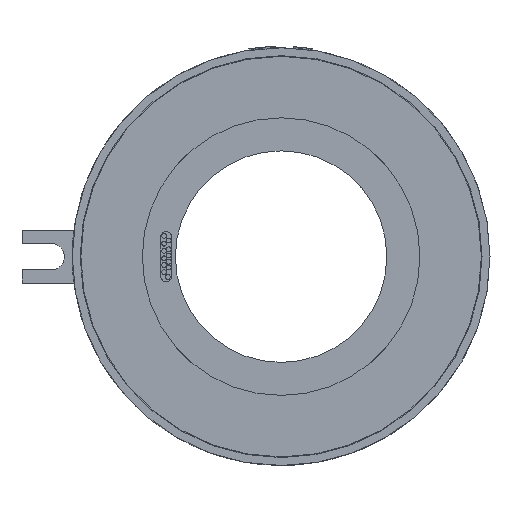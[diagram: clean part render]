
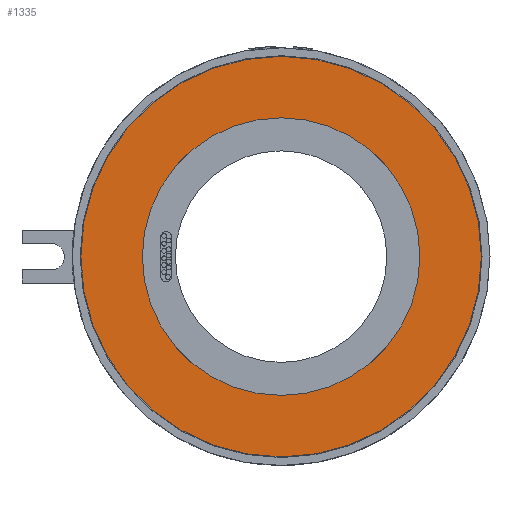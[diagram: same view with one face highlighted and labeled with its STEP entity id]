
A CAD part, front view. The second image highlights one B-rep face of the part: STEP entity #1335.
In plain terms, the highlighted planar face has unit normal (0, -1, 0).
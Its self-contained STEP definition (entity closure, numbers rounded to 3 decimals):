
#224=FACE_BOUND('',#2676,.T.);
#225=FACE_BOUND('',#2677,.T.);
#367=CIRCLE('',#8122,52.5);
#371=CIRCLE('',#8128,75.75);
#372=CIRCLE('',#8129,75.75);
#373=CIRCLE('',#8130,52.5);
#792=PLANE('',#8131);
#1335=ADVANCED_FACE('',(#224,#225),#792,.F.);
#2676=EDGE_LOOP('',(#4220,#4221));
#2677=EDGE_LOOP('',(#4222,#4223));
#4220=ORIENTED_EDGE('',*,*,#6752,.T.);
#4221=ORIENTED_EDGE('',*,*,#6753,.T.);
#4222=ORIENTED_EDGE('',*,*,#6754,.T.);
#4223=ORIENTED_EDGE('',*,*,#6744,.T.);
#5735=VERTEX_POINT('',#29063);
#5736=VERTEX_POINT('',#29065);
#5743=VERTEX_POINT('',#29203);
#5744=VERTEX_POINT('',#29204);
#6744=EDGE_CURVE('',#5735,#5736,#367,.T.);
#6752=EDGE_CURVE('',#5743,#5744,#371,.T.);
#6753=EDGE_CURVE('',#5744,#5743,#372,.T.);
#6754=EDGE_CURVE('',#5736,#5735,#373,.T.);
#8122=AXIS2_PLACEMENT_3D('',#29066,#9254,#9255);
#8128=AXIS2_PLACEMENT_3D('',#29202,#9266,#9267);
#8129=AXIS2_PLACEMENT_3D('',#29205,#9268,#9269);
#8130=AXIS2_PLACEMENT_3D('',#29206,#9270,#9271);
#8131=AXIS2_PLACEMENT_3D('',#29207,#9272,#9273);
#9254=DIRECTION('',(0.,1.,0.));
#9255=DIRECTION('',(1.,0.,0.));
#9266=DIRECTION('',(0.,-1.,0.));
#9267=DIRECTION('',(0.,0.,1.));
#9268=DIRECTION('',(0.,-1.,0.));
#9269=DIRECTION('',(0.,0.,-1.));
#9270=DIRECTION('',(0.,1.,0.));
#9271=DIRECTION('',(-1.,0.,0.));
#9272=DIRECTION('',(0.,1.,0.));
#9273=DIRECTION('',(-1.,0.,0.));
#29063=CARTESIAN_POINT('',(52.5,9.5,0.));
#29065=CARTESIAN_POINT('',(-52.5,9.5,0.));
#29066=CARTESIAN_POINT('',(0.,9.5,0.));
#29202=CARTESIAN_POINT('',(0.,9.5,0.));
#29203=CARTESIAN_POINT('',(0.,9.5,75.75));
#29204=CARTESIAN_POINT('',(0.,9.5,-75.75));
#29205=CARTESIAN_POINT('',(0.,9.5,0.));
#29206=CARTESIAN_POINT('',(0.,9.5,0.));
#29207=CARTESIAN_POINT('',(0.,9.5,0.));
